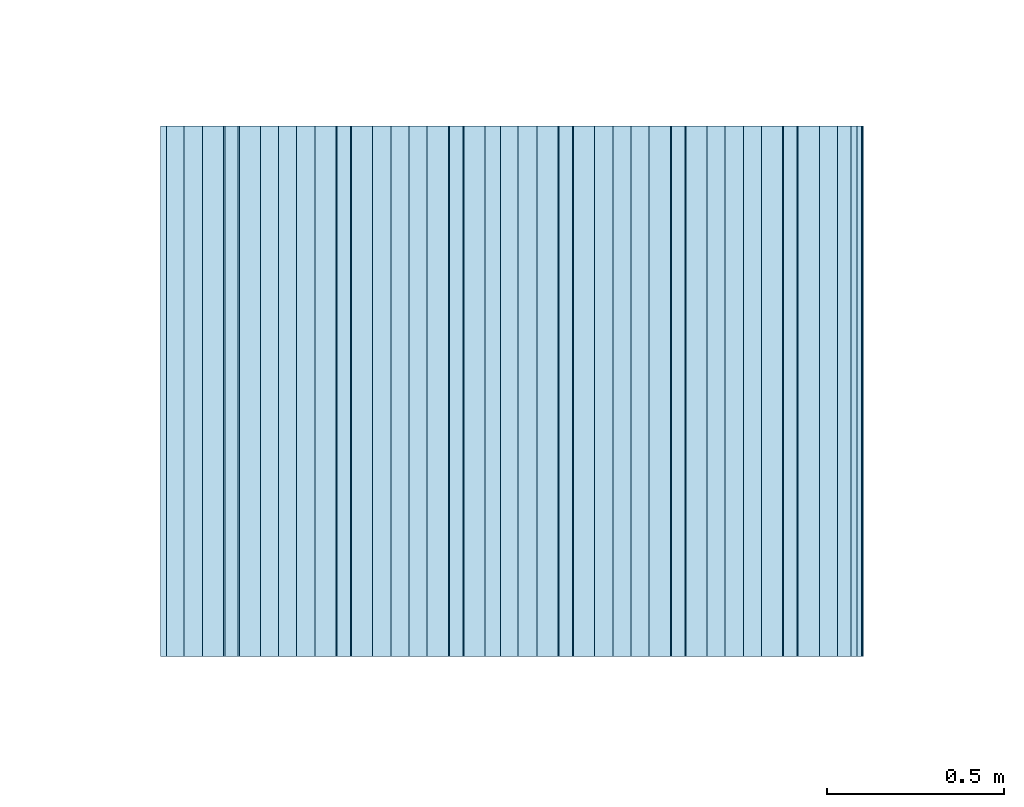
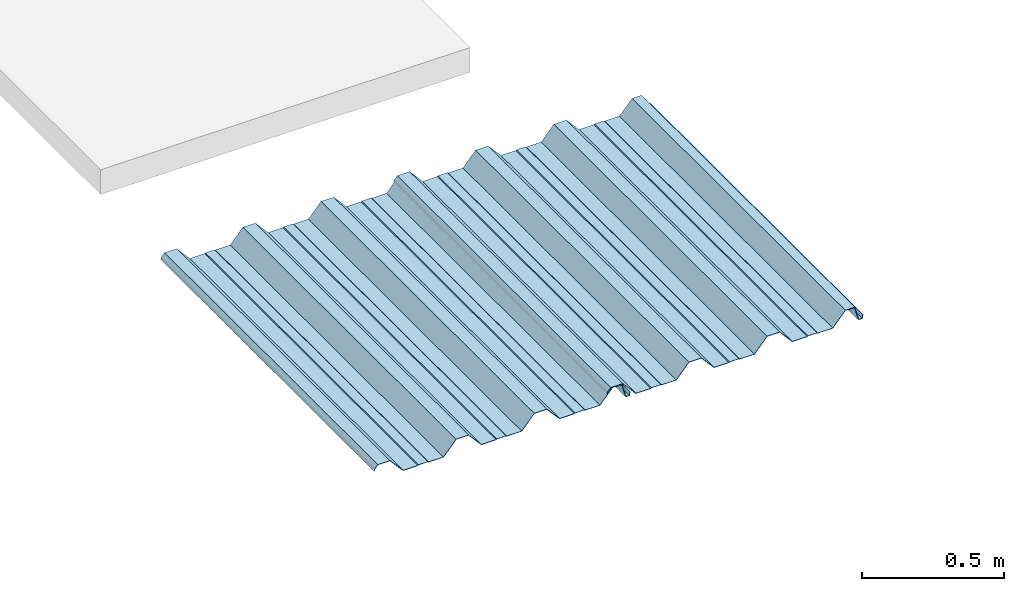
# One storey, part 7 of 11: 1 roof.
"""IFC2X3 building model written with IfcOpenShell, lengths in millimetres."""

from ifc_helpers import new_model, entity, si_unit, converted_unit, derived_unit, direction, frame, origin, place, context, subcontext, project, spatial, faceted_brep, material, element, save


model = new_model("IFC2X3")

# Units and contexts
model_context = context("Model", 3, precision=0.01, world=origin(), true_north=direction((6.12303176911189e-17, 1.0)))
body_context = subcontext(model_context, "Body", "Model", "MODEL_VIEW")
ifc_project = project(units=[si_unit("LENGTHUNIT", "METRE", prefix="MILLI"), si_unit("AREAUNIT", "SQUARE_METRE"), si_unit("VOLUMEUNIT", "CUBIC_METRE"), converted_unit("PLANEANGLEUNIT", "DEGREE", entity("IfcRatioMeasure", 0.0174532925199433), si_unit("PLANEANGLEUNIT", "RADIAN"), dimensions=[0, 0, 0, 0, 0, 0, 0]), si_unit("MASSUNIT", "GRAM", prefix="KILO"), si_unit("TIMEUNIT", "SECOND"), si_unit("FREQUENCYUNIT", "HERTZ"), si_unit("THERMODYNAMICTEMPERATUREUNIT", "KELVIN"), derived_unit("THERMALTRANSMITTANCEUNIT", [(si_unit("MASSUNIT", "GRAM", prefix="KILO"), 1), (si_unit("THERMODYNAMICTEMPERATUREUNIT", "KELVIN"), -1), (si_unit("TIMEUNIT", "SECOND"), -3)]), derived_unit("VOLUMETRICFLOWRATEUNIT", [(si_unit("LENGTHUNIT", "METRE"), 3), (si_unit("TIMEUNIT", "SECOND"), -1)]), si_unit("ELECTRICCURRENTUNIT", "AMPERE"), si_unit("ELECTRICVOLTAGEUNIT", "VOLT"), si_unit("POWERUNIT", "WATT")], contexts=[model_context])

# Site, building, storey
site_placement = place(None, origin())
site = spatial("IfcSite", under=ifc_project, at=site_placement, Name="Surface:5707", CompositionType="ELEMENT")
building_placement = place(site_placement, origin())
building = spatial("IfcBuilding", under=site, at=building_placement, CompositionType="ELEMENT")
storey_placement = place(building_placement, origin())
storey = spatial("IfcBuildingStorey", under=building, at=storey_placement, Name="00_begane grond", CompositionType="ELEMENT", Elevation=0.0)

# Roof
ifc_material = material(Name="Default Roof")
roof_placement = place(storey_placement, frame((34647.8084880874, -13415.0, 1.53349543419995)))
element("IfcRoof", 1, at=roof_placement, inside=storey, material=ifc_material, Name="27_CWP_SAB58KD_945:SAB58KD_945:SAB58KD_945 : 27_CWP_SAB58KD_945:SAB58KD_945:4386", ObjectType="27_CWP_SAB58KD_945:SAB58KD_945:27_CWP_SAB58KD_945:SAB58KD_945:4384", ShapeType="NOTDEFINED", context=body_context, shape_type="Brep", body=[
    faceted_brep([(1444.0873223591, 1500.0, 4.01608636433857), (1481.99047137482, 1500.0, 4.01608636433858), (1485.01460092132, 1500.0, 2.0), (1544.74249792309, 1500.0, 2.0), (1596.15271867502, 1500.0, 60.4665045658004), (1647.45945953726, 1500.0, 60.4665045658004), (1698.86968028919, 1500.0, 2.0), (1758.59679519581, 1500.0, 2.0), (1761.62092474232, 1500.0, 4.01608636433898), (1799.52407375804, 1500.0, 4.01608636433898), (1802.54820330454, 1500.0, 2.0), (1862.27564539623, 1500.0, 2.0), (1913.68599537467, 1500.0, 60.4665045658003), (1952.19292289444, 1500.0, 60.4665045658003), (1968.71288313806, 1500.0, 2.0), (1981.88301738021, 1500.0, 2.0), (1985.0687760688, 1500.0, 16.3365608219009), (1987.02115433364, 1500.0, 15.9027185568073), (1983.48737629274, 1500.0, 0.0), (1967.19968763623, 1500.0, 0.0), (1950.67972739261, 1500.0, 58.4665045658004), (1914.59059408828, 1500.0, 58.4665045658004), (1863.18024410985, 1500.0, 0.0), (1801.94265202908, 1500.0, 0.0), (1798.91852248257, 1500.0, 2.01608636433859), (1762.22647601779, 1500.0, 2.01608636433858), (1759.20234647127, 1500.0, 0.0), (1697.96508007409, 1500.0, 0.0), (1646.55485932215, 1500.0, 58.4665045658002), (1597.05731889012, 1500.0, 58.4665045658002), (1545.64709813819, 1500.0, 0.0), (1484.40904964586, 1500.0, 0.0), (1481.38492009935, 1500.0, 2.01608636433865), (1444.69287363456, 1500.0, 2.01608636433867), (1441.66874408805, 1500.0, 0.0), (1380.42963576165, 1500.0, 0.0), (1329.01941500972, 1500.0, 58.4665045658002), (1279.52187457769, 1500.0, 58.4665045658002), (1228.11165382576, 1500.0, 0.0), (1166.87360533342, 1500.0, 0.0), (1163.84947578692, 1500.0, 2.01608636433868), (1127.15742932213, 1500.0, 2.01608636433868), (1124.13329977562, 1500.0, 0.0), (1062.89896015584, 1500.0, 0.0), (1009.72528786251, 1500.0, 60.4665045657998), (961.986248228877, 1500.0, 60.4665045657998), (950.975534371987, 1500.0, 48.1530989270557), (946.825488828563, 1500.0, 38.8810234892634), (945.0, 1500.0, 39.6980856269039), (949.277195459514, 1500.0, 49.2542407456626), (961.091673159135, 1500.0, 62.4665045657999), (1010.62983381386, 1500.0, 62.4665045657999), (1063.80350610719, 1500.0, 2.0), (1123.52774850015, 1500.0, 2.0), (1126.55187804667, 1500.0, 4.01608636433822), (1164.45502706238, 1500.0, 4.01608636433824), (1167.47915660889, 1500.0, 2.0), (1227.20705361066, 1500.0, 2.0), (1278.61727436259, 1500.0, 60.4665045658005), (1329.92401522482, 1500.0, 60.4665045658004), (1381.33423597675, 1500.0, 2.0), (1441.06319281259, 1500.0, 2.0), (1444.0873223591, 0.0, 4.01608636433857), (1441.06319281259, 0.0, 2.0), (1381.33423597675, 0.0, 2.0), (1329.92401522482, 0.0, 60.4665045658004), (1278.61727436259, 0.0, 60.4665045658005), (1227.20705361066, 0.0, 2.0), (1167.47915660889, 0.0, 2.0), (1164.45502706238, 0.0, 4.01608636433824), (1126.55187804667, 0.0, 4.01608636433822), (1123.52774850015, 0.0, 2.0), (1063.80350610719, 0.0, 2.0), (1010.62983381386, 0.0, 62.4665045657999), (961.091673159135, 0.0, 62.4665045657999), (949.277195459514, 0.0, 49.2542407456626), (945.0, 0.0, 39.6980856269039), (946.825488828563, 0.0, 38.8810234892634), (950.975534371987, 0.0, 48.1530989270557), (961.986248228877, 0.0, 60.4665045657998), (1009.72528786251, 0.0, 60.4665045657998), (1062.89896015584, 0.0, 0.0), (1124.13329977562, 0.0, 0.0), (1127.15742932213, 0.0, 2.01608636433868), (1163.84947578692, 0.0, 2.01608636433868), (1166.87360533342, 0.0, 0.0), (1228.11165382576, 0.0, 0.0), (1279.52187457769, 0.0, 58.4665045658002), (1329.01941500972, 0.0, 58.4665045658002), (1380.42963576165, 0.0, 0.0), (1441.66874408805, 0.0, 0.0), (1444.69287363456, 0.0, 2.01608636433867), (1481.38492009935, 0.0, 2.01608636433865), (1484.40904964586, 0.0, 0.0), (1545.64709813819, 0.0, 0.0), (1597.05731889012, 0.0, 58.4665045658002), (1646.55485932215, 0.0, 58.4665045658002), (1697.96508007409, 0.0, 0.0), (1759.20234647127, 0.0, 0.0), (1762.22647601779, 0.0, 2.01608636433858), (1798.91852248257, 0.0, 2.01608636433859), (1801.94265202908, 0.0, 0.0), (1863.18024410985, 0.0, 0.0), (1914.59059408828, 0.0, 58.4665045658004), (1950.67972739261, 0.0, 58.4665045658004), (1967.19968763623, 0.0, 0.0), (1983.48737629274, 0.0, 0.0), (1987.02115433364, 0.0, 15.9027185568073), (1985.0687760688, 0.0, 16.3365608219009), (1981.88301738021, 0.0, 2.0), (1968.71288313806, 0.0, 2.0), (1952.19292289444, 0.0, 60.4665045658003), (1913.68599537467, 0.0, 60.4665045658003), (1862.27564539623, 0.0, 2.0), (1802.54820330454, 0.0, 2.0), (1799.52407375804, 0.0, 4.01608636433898), (1761.62092474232, 0.0, 4.01608636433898), (1758.59679519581, 0.0, 2.0), (1698.86968028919, 0.0, 2.0), (1647.45945953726, 0.0, 60.4665045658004), (1596.15271867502, 0.0, 60.4665045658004), (1544.74249792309, 0.0, 2.0), (1485.01460092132, 0.0, 2.0), (1481.99047137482, 0.0, 4.01608636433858)], [[[0, 1, 2, 3, 4, 5, 6, 7, 8, 9, 10, 11, 12, 13, 14, 15, 16, 17, 18, 19, 20, 21, 22, 23, 24, 25, 26, 27, 28, 29, 30, 31, 32, 33, 34, 35, 36, 37, 38, 39, 40, 41, 42, 43, 44, 45, 46, 47, 48, 49, 50, 51, 52, 53, 54, 55, 56, 57, 58, 59, 60, 61]], [[62, 63, 64, 65, 66, 67, 68, 69, 70, 71, 72, 73, 74, 75, 76, 77, 78, 79, 80, 81, 82, 83, 84, 85, 86, 87, 88, 89, 90, 91, 92, 93, 94, 95, 96, 97, 98, 99, 100, 101, 102, 103, 104, 105, 106, 107, 108, 109, 110, 111, 112, 113, 114, 115, 116, 117, 118, 119, 120, 121, 122, 123]], [[1, 0, 62, 123]], [[2, 1, 123, 122]], [[3, 2, 122, 121]], [[4, 3, 121, 120]], [[5, 4, 120, 119]], [[6, 5, 119, 118]], [[7, 6, 118, 117]], [[8, 7, 117, 116]], [[9, 8, 116, 115]], [[10, 9, 115, 114]], [[11, 10, 114, 113]], [[12, 11, 113, 112]], [[13, 12, 112, 111]], [[14, 13, 111, 110]], [[15, 14, 110, 109]], [[16, 15, 109, 108]], [[17, 16, 108, 107]], [[18, 17, 107, 106]], [[19, 18, 106, 105]], [[20, 19, 105, 104]], [[21, 20, 104, 103]], [[22, 21, 103, 102]], [[23, 22, 102, 101]], [[24, 23, 101, 100]], [[25, 24, 100, 99]], [[26, 25, 99, 98]], [[27, 26, 98, 97]], [[28, 27, 97, 96]], [[29, 28, 96, 95]], [[30, 29, 95, 94]], [[31, 30, 94, 93]], [[32, 31, 93, 92]], [[33, 32, 92, 91]], [[34, 33, 91, 90]], [[35, 34, 90, 89]], [[36, 35, 89, 88]], [[37, 36, 88, 87]], [[38, 37, 87, 86]], [[39, 38, 86, 85]], [[40, 39, 85, 84]], [[41, 40, 84, 83]], [[42, 41, 83, 82]], [[43, 42, 82, 81]], [[44, 43, 81, 80]], [[45, 44, 80, 79]], [[46, 45, 79, 78]], [[47, 46, 78, 77]], [[48, 47, 77, 76]], [[49, 48, 76, 75]], [[50, 49, 75, 74]], [[51, 50, 74, 73]], [[52, 51, 73, 72]], [[53, 52, 72, 71]], [[54, 53, 71, 70]], [[55, 54, 70, 69]], [[56, 55, 69, 68]], [[57, 56, 68, 67]], [[58, 57, 67, 66]], [[59, 58, 66, 65]], [[60, 59, 65, 64]], [[61, 60, 64, 63]], [[0, 61, 63, 62]]]),
    faceted_brep([(499.087322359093, 1500.0, 4.01608636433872), (536.990471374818, 1500.0, 4.01608636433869), (540.014600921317, 1500.0, 2.0), (599.742497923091, 1500.0, 2.0), (651.152718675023, 1500.0, 60.4665045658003), (702.459459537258, 1500.0, 60.4665045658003), (753.86968028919, 1500.0, 2.0), (813.596795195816, 1500.0, 2.0), (816.620924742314, 1500.0, 4.01608636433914), (854.524073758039, 1500.0, 4.01608636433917), (857.548203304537, 1500.0, 2.0), (917.275645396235, 1500.0, 2.0), (968.685995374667, 1500.0, 60.4665045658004), (1007.19292289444, 1500.0, 60.4665045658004), (1023.71288313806, 1500.0, 2.0), (1036.88301738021, 1500.0, 2.0), (1040.0687760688, 1500.0, 16.3365608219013), (1042.02115433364, 1500.0, 15.9027185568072), (1038.48737629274, 1500.0, 0.0), (1022.19968763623, 1500.0, 0.0), (1005.67972739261, 1500.0, 58.4665045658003), (969.590594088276, 1500.0, 58.4665045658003), (918.180244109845, 1500.0, 0.0), (856.942652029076, 1500.0, 0.0), (853.918522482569, 1500.0, 2.01608636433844), (817.226476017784, 1500.0, 2.01608636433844), (814.202346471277, 1500.0, 0.0), (752.965080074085, 1500.0, 0.0), (701.554859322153, 1500.0, 58.4665045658), (652.057318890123, 1500.0, 58.4665045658), (600.647098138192, 1500.0, 0.0), (539.409049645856, 1500.0, 0.0), (536.384920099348, 1500.0, 2.01608636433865), (499.692873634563, 1500.0, 2.01608636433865), (496.668744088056, 1500.0, 0.0), (435.429635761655, 1500.0, 0.0), (384.019415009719, 1500.0, 58.4665045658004), (334.521874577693, 1500.0, 58.4665045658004), (283.111653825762, 1500.0, 0.0), (221.873605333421, 1500.0, 0.0), (218.849475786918, 1500.0, 2.01608636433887), (182.157429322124, 1500.0, 2.01608636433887), (179.133299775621, 1500.0, 0.0), (117.898960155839, 1500.0, 0.0), (64.7252878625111, 1500.0, 60.4665045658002), (16.9862482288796, 1500.0, 60.4665045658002), (5.97553437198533, 1500.0, 48.1530989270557), (1.82548882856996, 1500.0, 38.8810234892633), (0.0, 1500.0, 39.6980856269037), (4.27719545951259, 1500.0, 49.2542407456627), (16.0916731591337, 1500.0, 62.4665045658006), (65.629833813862, 1500.0, 62.4665045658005), (118.80350610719, 1500.0, 2.0), (178.527748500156, 1500.0, 2.0), (181.551878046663, 1500.0, 4.01608636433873), (219.455027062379, 1500.0, 4.01608636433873), (222.479156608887, 1500.0, 2.0), (282.207053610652, 1500.0, 2.0), (333.617274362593, 1500.0, 60.4665045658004), (384.924015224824, 1500.0, 60.4665045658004), (436.334235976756, 1500.0, 2.0), (496.063192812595, 1500.0, 2.0), (499.087322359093, 0.0, 4.01608636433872), (496.063192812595, 0.0, 2.0), (436.334235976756, 0.0, 2.0), (384.924015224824, 0.0, 60.4665045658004), (333.617274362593, 0.0, 60.4665045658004), (282.207053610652, 0.0, 2.0), (222.479156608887, 0.0, 2.0), (219.455027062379, 0.0, 4.01608636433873), (181.551878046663, 0.0, 4.01608636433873), (178.527748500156, 0.0, 2.0), (118.80350610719, 0.0, 2.0), (65.629833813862, 0.0, 62.4665045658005), (16.0916731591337, 0.0, 62.4665045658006), (4.27719545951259, 0.0, 49.2542407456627), (0.0, 0.0, 39.6980856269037), (1.82548882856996, 0.0, 38.8810234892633), (5.97553437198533, 0.0, 48.1530989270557), (16.9862482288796, 0.0, 60.4665045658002), (64.7252878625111, 0.0, 60.4665045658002), (117.898960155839, 0.0, 0.0), (179.133299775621, 0.0, 0.0), (182.157429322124, 0.0, 2.01608636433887), (218.849475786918, 0.0, 2.01608636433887), (221.873605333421, 0.0, 0.0), (283.111653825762, 0.0, 0.0), (334.521874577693, 0.0, 58.4665045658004), (384.019415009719, 0.0, 58.4665045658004), (435.429635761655, 0.0, 0.0), (496.668744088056, 0.0, 0.0), (499.692873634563, 0.0, 2.01608636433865), (536.384920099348, 0.0, 2.01608636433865), (539.409049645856, 0.0, 0.0), (600.647098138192, 0.0, 0.0), (652.057318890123, 0.0, 58.4665045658), (701.554859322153, 0.0, 58.4665045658), (752.965080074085, 0.0, 0.0), (814.202346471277, 0.0, 0.0), (817.226476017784, 0.0, 2.01608636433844), (853.918522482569, 0.0, 2.01608636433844), (856.942652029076, 0.0, 0.0), (918.180244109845, 0.0, 0.0), (969.590594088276, 0.0, 58.4665045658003), (1005.67972739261, 0.0, 58.4665045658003), (1022.19968763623, 0.0, 0.0), (1038.48737629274, 0.0, 0.0), (1042.02115433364, 0.0, 15.9027185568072), (1040.0687760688, 0.0, 16.3365608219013), (1036.88301738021, 0.0, 2.0), (1023.71288313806, 0.0, 2.0), (1007.19292289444, 0.0, 60.4665045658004), (968.685995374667, 0.0, 60.4665045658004), (917.275645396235, 0.0, 2.0), (857.548203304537, 0.0, 2.0), (854.524073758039, 0.0, 4.01608636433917), (816.620924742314, 0.0, 4.01608636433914), (813.596795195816, 0.0, 2.0), (753.86968028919, 0.0, 2.0), (702.459459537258, 0.0, 60.4665045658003), (651.152718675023, 0.0, 60.4665045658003), (599.742497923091, 0.0, 2.0), (540.014600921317, 0.0, 2.0), (536.990471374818, 0.0, 4.01608636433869)], [[[0, 1, 2, 3, 4, 5, 6, 7, 8, 9, 10, 11, 12, 13, 14, 15, 16, 17, 18, 19, 20, 21, 22, 23, 24, 25, 26, 27, 28, 29, 30, 31, 32, 33, 34, 35, 36, 37, 38, 39, 40, 41, 42, 43, 44, 45, 46, 47, 48, 49, 50, 51, 52, 53, 54, 55, 56, 57, 58, 59, 60, 61]], [[62, 63, 64, 65, 66, 67, 68, 69, 70, 71, 72, 73, 74, 75, 76, 77, 78, 79, 80, 81, 82, 83, 84, 85, 86, 87, 88, 89, 90, 91, 92, 93, 94, 95, 96, 97, 98, 99, 100, 101, 102, 103, 104, 105, 106, 107, 108, 109, 110, 111, 112, 113, 114, 115, 116, 117, 118, 119, 120, 121, 122, 123]], [[1, 0, 62, 123]], [[2, 1, 123, 122]], [[3, 2, 122, 121]], [[4, 3, 121, 120]], [[5, 4, 120, 119]], [[6, 5, 119, 118]], [[7, 6, 118, 117]], [[8, 7, 117, 116]], [[9, 8, 116, 115]], [[10, 9, 115, 114]], [[11, 10, 114, 113]], [[12, 11, 113, 112]], [[13, 12, 112, 111]], [[14, 13, 111, 110]], [[15, 14, 110, 109]], [[16, 15, 109, 108]], [[17, 16, 108, 107]], [[18, 17, 107, 106]], [[19, 18, 106, 105]], [[20, 19, 105, 104]], [[21, 20, 104, 103]], [[22, 21, 103, 102]], [[23, 22, 102, 101]], [[24, 23, 101, 100]], [[25, 24, 100, 99]], [[26, 25, 99, 98]], [[27, 26, 98, 97]], [[28, 27, 97, 96]], [[29, 28, 96, 95]], [[30, 29, 95, 94]], [[31, 30, 94, 93]], [[32, 31, 93, 92]], [[33, 32, 92, 91]], [[34, 33, 91, 90]], [[35, 34, 90, 89]], [[36, 35, 89, 88]], [[37, 36, 88, 87]], [[38, 37, 87, 86]], [[39, 38, 86, 85]], [[40, 39, 85, 84]], [[41, 40, 84, 83]], [[42, 41, 83, 82]], [[43, 42, 82, 81]], [[44, 43, 81, 80]], [[45, 44, 80, 79]], [[46, 45, 79, 78]], [[47, 46, 78, 77]], [[48, 47, 77, 76]], [[49, 48, 76, 75]], [[50, 49, 75, 74]], [[51, 50, 74, 73]], [[52, 51, 73, 72]], [[53, 52, 72, 71]], [[54, 53, 71, 70]], [[55, 54, 70, 69]], [[56, 55, 69, 68]], [[57, 56, 68, 67]], [[58, 57, 67, 66]], [[59, 58, 66, 65]], [[60, 59, 65, 64]], [[61, 60, 64, 63]], [[0, 61, 63, 62]]]),
])

save(model, "model.ifc")
